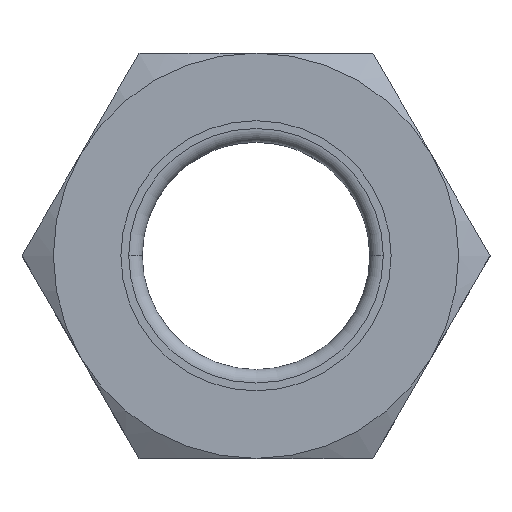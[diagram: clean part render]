
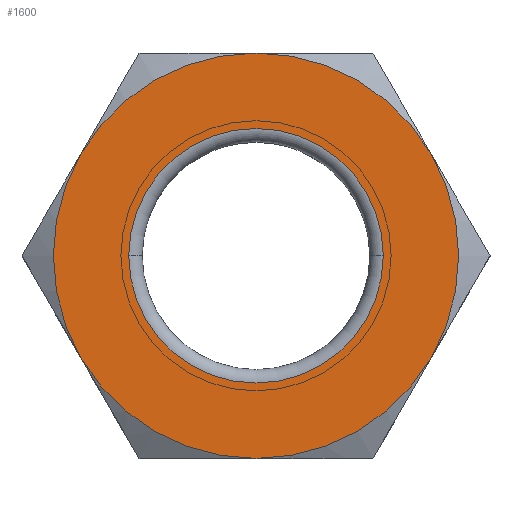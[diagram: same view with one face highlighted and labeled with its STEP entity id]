
A CAD part, top view. The second image highlights one B-rep face of the part: STEP entity #1600.
In plain terms, the highlighted planar face has unit normal (0, 0, 1).
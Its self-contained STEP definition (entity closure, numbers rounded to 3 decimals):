
#350=CARTESIAN_POINT('',(10.392,0.,16.));
#351=DIRECTION('',(0.,0.,-1.));
#352=DIRECTION('',(0.866,0.5,0.));
#353=AXIS2_PLACEMENT_3D('',#350,#351,#352);
#355=CARTESIAN_POINT('',(10.392,0.,16.));
#356=DIRECTION('',(0.,0.,-1.));
#357=DIRECTION('',(0.866,-0.5,0.));
#358=AXIS2_PLACEMENT_3D('',#355,#356,#357);
#360=CARTESIAN_POINT('',(10.392,0.,16.));
#361=DIRECTION('',(0.,0.,-1.));
#362=DIRECTION('',(0.,-1.,0.));
#363=AXIS2_PLACEMENT_3D('',#360,#361,#362);
#365=CARTESIAN_POINT('',(10.392,0.,16.));
#366=DIRECTION('',(0.,0.,-1.));
#367=DIRECTION('',(-0.866,-0.5,0.));
#368=AXIS2_PLACEMENT_3D('',#365,#366,#367);
#370=CARTESIAN_POINT('',(10.392,0.,16.));
#371=DIRECTION('',(0.,0.,-1.));
#372=DIRECTION('',(-0.866,0.5,0.));
#373=AXIS2_PLACEMENT_3D('',#370,#371,#372);
#375=CARTESIAN_POINT('',(10.392,0.,16.));
#376=DIRECTION('',(0.,0.,-1.));
#377=DIRECTION('',(0.,1.,0.));
#378=AXIS2_PLACEMENT_3D('',#375,#376,#377);
#380=CARTESIAN_POINT('',(10.392,0.,16.));
#381=DIRECTION('',(0.,0.,-1.));
#382=DIRECTION('',(1.,0.,0.));
#383=AXIS2_PLACEMENT_3D('',#380,#381,#382);
#400=CARTESIAN_POINT('',(10.392,0.,16.));
#401=DIRECTION('',(0.,0.,-1.));
#402=DIRECTION('',(-1.,0.,0.));
#403=AXIS2_PLACEMENT_3D('',#400,#401,#402);
#1031=CARTESIAN_POINT('',(4.739,0.,16.));
#1032=CARTESIAN_POINT('',(16.045,0.,16.));
#1033=VERTEX_POINT('',#1031);
#1034=VERTEX_POINT('',#1032);
#1039=CARTESIAN_POINT('',(18.187,4.5,16.));
#1040=CARTESIAN_POINT('',(18.187,-4.5,16.));
#1041=VERTEX_POINT('',#1039);
#1042=VERTEX_POINT('',#1040);
#1043=CARTESIAN_POINT('',(10.392,-9.,16.));
#1044=VERTEX_POINT('',#1043);
#1045=CARTESIAN_POINT('',(2.598,-4.5,16.));
#1046=CARTESIAN_POINT('',(2.598,4.5,16.));
#1047=VERTEX_POINT('',#1045);
#1048=VERTEX_POINT('',#1046);
#1049=CARTESIAN_POINT('',(10.392,9.,16.));
#1050=VERTEX_POINT('',#1049);
#1578=CARTESIAN_POINT('',(0.,0.,16.));
#1579=DIRECTION('',(0.,0.,1.));
#1580=DIRECTION('',(1.,0.,0.));
#1581=AXIS2_PLACEMENT_3D('',#1578,#1579,#1580);
#1582=PLANE('',#1581);
#1583=ORIENTED_EDGE('',*,*,#1549,.T.);
#1584=ORIENTED_EDGE('',*,*,#1561,.T.);
#1585=ORIENTED_EDGE('',*,*,#1572,.T.);
#1587=ORIENTED_EDGE('',*,*,#1586,.T.);
#1589=ORIENTED_EDGE('',*,*,#1588,.T.);
#1591=ORIENTED_EDGE('',*,*,#1590,.T.);
#1592=EDGE_LOOP('',(#1583,#1584,#1585,#1587,#1589,#1591));
#1593=FACE_OUTER_BOUND('',#1592,.F.);
#1595=ORIENTED_EDGE('',*,*,#1594,.F.);
#1597=ORIENTED_EDGE('',*,*,#1596,.F.);
#1598=EDGE_LOOP('',(#1595,#1597));
#1599=FACE_BOUND('',#1598,.F.);
#354=CIRCLE('',#353,9.);
#359=CIRCLE('',#358,9.);
#364=CIRCLE('',#363,9.);
#369=CIRCLE('',#368,9.);
#374=CIRCLE('',#373,9.);
#379=CIRCLE('',#378,9.);
#384=CIRCLE('',#383,5.653);
#404=CIRCLE('',#403,5.653);
#1549=EDGE_CURVE('',#1041,#1042,#354,.T.);
#1561=EDGE_CURVE('',#1042,#1044,#359,.T.);
#1572=EDGE_CURVE('',#1044,#1047,#364,.T.);
#1586=EDGE_CURVE('',#1047,#1048,#369,.T.);
#1588=EDGE_CURVE('',#1048,#1050,#374,.T.);
#1590=EDGE_CURVE('',#1050,#1041,#379,.T.);
#1594=EDGE_CURVE('',#1034,#1033,#384,.T.);
#1596=EDGE_CURVE('',#1033,#1034,#404,.T.);
#1600=ADVANCED_FACE('',(#1593,#1599),#1582,.T.);
